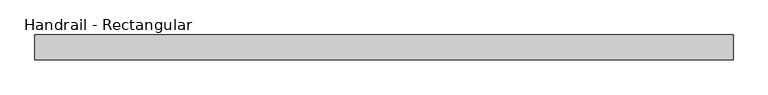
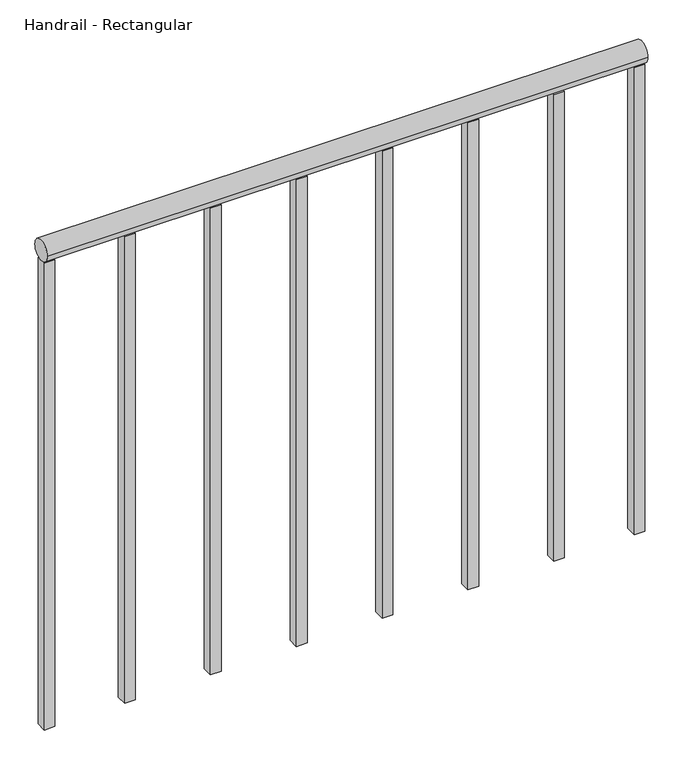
"""IFC4 building model written with IfcOpenShell, lengths in millimetres: railing geometry, Handrail - Rectangular."""

from ifc_helpers import new_model, si_unit, point, frame, frame_2d, origin, place, context, project, spatial, polyline, circle_curve, trimmed, segment, composite_curve, outline, extrude, source, transform, mapped, element, save


def handrail_rectangular_17d4969a(model_context):
    return source(origin(), model_context, "Body", "SweptSolid", [
        extrude(outline(composite_curve([segment(trimmed(circle_curve(frame_2d((11944.8316867, 3943.35)), 19.05), [point((11963.8816867, 3943.35))], [point((11925.7816867, 3943.35))], False, "CARTESIAN"), True, "CONTINUOUS"), segment(trimmed(circle_curve(frame_2d((11944.8316867, 3943.35)), 19.05), [point((11925.7816867, 3943.35))], [point((11963.8816867, 3943.35))], False, "CARTESIAN"), True, "CONTINUOUS")], self_intersect=False)), frame((-31964.2839563, 0.0, 0.0), z_axis=(1.0, 0.0, 0.0), x_axis=(0.0, 1.0, 0.0)), (0.0, 0.0, 1.0), 1066.8),
        extrude(outline(polyline([(-31802.3589563, 11935.3066867), (-31821.4089563, 11935.3066867), (-31821.4089563, 11954.3566867), (-31802.3589563, 11954.3566867), (-31802.3589563, 11935.3066867)])), frame((0.0, 0.0, 3048.0), z_axis=(0.0, 0.0, 1.0), x_axis=(1.0, 0.0, 0.0)), (0.0, 0.0, 1.0), 876.3),
        extrude(outline(polyline([(-31649.9589563, 11935.3066867), (-31669.0089563, 11935.3066867), (-31669.0089563, 11954.3566867), (-31649.9589563, 11954.3566867), (-31649.9589563, 11935.3066867)])), frame((0.0, 0.0, 3048.0), z_axis=(0.0, 0.0, 1.0), x_axis=(1.0, 0.0, 0.0)), (0.0, 0.0, 1.0), 876.3),
        extrude(outline(polyline([(-31497.5589563, 11935.3066867), (-31516.6089563, 11935.3066867), (-31516.6089563, 11954.3566867), (-31497.5589563, 11954.3566867), (-31497.5589563, 11935.3066867)])), frame((0.0, 0.0, 3048.0), z_axis=(0.0, 0.0, 1.0), x_axis=(1.0, 0.0, 0.0)), (0.0, 0.0, 1.0), 876.3),
        extrude(outline(polyline([(-31345.1589563, 11935.3066867), (-31364.2089563, 11935.3066867), (-31364.2089563, 11954.3566867), (-31345.1589563, 11954.3566867), (-31345.1589563, 11935.3066867)])), frame((0.0, 0.0, 3048.0), z_axis=(0.0, 0.0, 1.0), x_axis=(1.0, 0.0, 0.0)), (0.0, 0.0, 1.0), 876.3),
        extrude(outline(polyline([(-31192.7589563, 11935.3066867), (-31211.8089563, 11935.3066867), (-31211.8089563, 11954.3566867), (-31192.7589563, 11954.3566867), (-31192.7589563, 11935.3066867)])), frame((0.0, 0.0, 3048.0), z_axis=(0.0, 0.0, 1.0), x_axis=(1.0, 0.0, 0.0)), (0.0, 0.0, 1.0), 876.3),
        extrude(outline(polyline([(-31040.3589563, 11935.3066867), (-31059.4089563, 11935.3066867), (-31059.4089563, 11954.3566867), (-31040.3589563, 11954.3566867), (-31040.3589563, 11935.3066867)])), frame((0.0, 0.0, 3048.0), z_axis=(0.0, 0.0, 1.0), x_axis=(1.0, 0.0, 0.0)), (0.0, 0.0, 1.0), 876.3),
        extrude(outline(polyline([(-31945.2339563, 11935.3066867), (-31964.2839563, 11935.3066867), (-31964.2839563, 11954.3566867), (-31945.2339563, 11954.3566867), (-31945.2339563, 11935.3066867)])), frame((0.0, 0.0, 3048.0), z_axis=(0.0, 0.0, 1.0), x_axis=(1.0, 0.0, 0.0)), (0.0, 0.0, 1.0), 876.3),
        extrude(outline(polyline([(-30897.4839563, 11935.3066867), (-30916.5339563, 11935.3066867), (-30916.5339563, 11954.3566867), (-30897.4839563, 11954.3566867), (-30897.4839563, 11935.3066867)])), frame((0.0, 0.0, 3048.0), z_axis=(0.0, 0.0, 1.0), x_axis=(1.0, 0.0, 0.0)), (0.0, 0.0, 1.0), 876.3),
    ])


if __name__ == "__main__":
    model = new_model("IFC4")
    model_context = context("Model", 3, world=origin())
    ifc_project = project(units=[si_unit("LENGTHUNIT", "METRE", prefix="MILLI")], contexts=[model_context])
    site = spatial("IfcSite", under=ifc_project)
    building = spatial("IfcBuilding", under=site)
    placement = place(None, origin())
    handrail_rectangular_shape = handrail_rectangular_17d4969a(model_context)
    element("IfcRailing", 1, ObjectType="Handrail - Rectangular", at=placement, inside=building, context=model_context, shape_type="MappedRepresentation", body=[
        mapped(handrail_rectangular_shape, transform((0.0, 0.0, 0.0), x_axis=(1.0, 0.0, 0.0), y_axis=(0.0, 1.0, 0.0), z_axis=(0.0, 0.0, 1.0))),
    ])
    save(model, "model.ifc")
